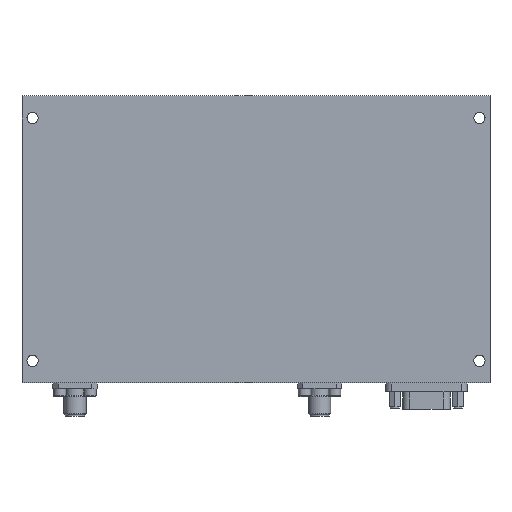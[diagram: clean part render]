
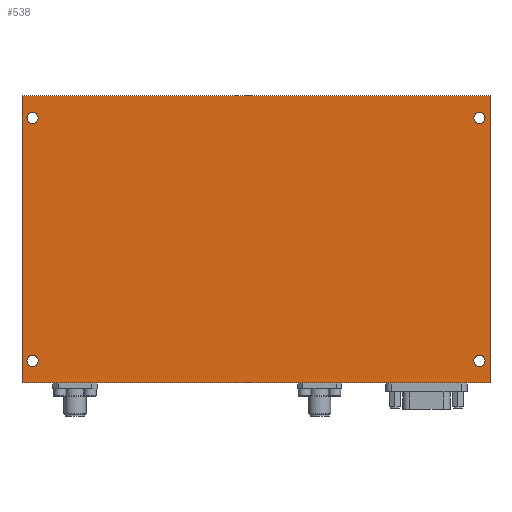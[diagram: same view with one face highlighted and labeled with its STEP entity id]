
A CAD part, top view. The second image highlights one B-rep face of the part: STEP entity #538.
In plain terms, the highlighted planar face has unit normal (0, 0, 1).
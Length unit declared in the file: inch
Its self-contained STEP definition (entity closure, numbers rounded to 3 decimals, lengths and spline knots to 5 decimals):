
#135=CARTESIAN_POINT('',(2.594,-1.375,0.57));
#136=VERTEX_POINT('',#135);
#137=CARTESIAN_POINT('',(2.53,-1.375,0.57));
#138=DIRECTION('',(0.0,0.0,-1.0));
#139=DIRECTION('',(1.0,0.0,0.0));
#140=AXIS2_PLACEMENT_3D('',#137,#138,#139);
#141=CIRCLE('',#140,0.064);
#142=EDGE_CURVE('',#136,#136,#141,.T.);
#163=CARTESIAN_POINT('',(-2.466,1.375,0.57));
#164=VERTEX_POINT('',#163);
#165=CARTESIAN_POINT('',(-2.53,1.375,0.57));
#166=DIRECTION('',(0.0,0.0,-1.0));
#167=DIRECTION('',(1.0,0.0,0.0));
#168=AXIS2_PLACEMENT_3D('',#165,#166,#167);
#169=CIRCLE('',#168,0.064);
#170=EDGE_CURVE('',#164,#164,#169,.T.);
#191=CARTESIAN_POINT('',(2.594,1.375,0.57));
#192=VERTEX_POINT('',#191);
#193=CARTESIAN_POINT('',(2.53,1.375,0.57));
#194=DIRECTION('',(0.0,0.0,-1.0));
#195=DIRECTION('',(1.0,0.0,0.0));
#196=AXIS2_PLACEMENT_3D('',#193,#194,#195);
#197=CIRCLE('',#196,0.064);
#198=EDGE_CURVE('',#192,#192,#197,.T.);
#219=CARTESIAN_POINT('',(-2.466,-1.375,0.57));
#220=VERTEX_POINT('',#219);
#221=CARTESIAN_POINT('',(-2.53,-1.375,0.57));
#222=DIRECTION('',(0.0,0.0,-1.0));
#223=DIRECTION('',(1.0,0.0,0.0));
#224=AXIS2_PLACEMENT_3D('',#221,#222,#223);
#225=CIRCLE('',#224,0.064);
#226=EDGE_CURVE('',#220,#220,#225,.T.);
#394=CARTESIAN_POINT('',(2.65,1.625,0.57));
#395=VERTEX_POINT('',#394);
#402=CARTESIAN_POINT('',(2.65,-1.625,0.57));
#403=VERTEX_POINT('',#402);
#404=CARTESIAN_POINT('',(2.65,-1.625,0.57));
#405=DIRECTION('',(0.0,1.0,0.0));
#406=VECTOR('',#405,3.25);
#407=LINE('',#404,#406);
#408=EDGE_CURVE('',#403,#395,#407,.T.);
#433=CARTESIAN_POINT('',(-2.65,-1.625,0.57));
#434=VERTEX_POINT('',#433);
#435=CARTESIAN_POINT('',(-2.65,-1.625,0.57));
#436=DIRECTION('',(1.0,0.0,0.0));
#437=VECTOR('',#436,5.3);
#438=LINE('',#435,#437);
#439=EDGE_CURVE('',#434,#403,#438,.T.);
#476=CARTESIAN_POINT('',(-2.65,1.625,0.57));
#477=VERTEX_POINT('',#476);
#478=CARTESIAN_POINT('',(-2.65,1.625,0.57));
#479=DIRECTION('',(0.0,-1.0,0.0));
#480=VECTOR('',#479,3.25);
#481=LINE('',#478,#480);
#482=EDGE_CURVE('',#477,#434,#481,.T.);
#505=CARTESIAN_POINT('',(2.65,1.625,0.57));
#506=DIRECTION('',(-1.0,0.0,0.0));
#507=VECTOR('',#506,5.3);
#508=LINE('',#505,#507);
#509=EDGE_CURVE('',#395,#477,#508,.T.);
#515=CARTESIAN_POINT('',(0.0,0.,0.57));
#516=DIRECTION('',(0.0,0.0,1.0));
#517=DIRECTION('',(1.0,0.0,0.0));
#518=AXIS2_PLACEMENT_3D('',#515,#516,#517);
#519=PLANE('',#518);
#520=ORIENTED_EDGE('',*,*,#509,.T.);
#521=ORIENTED_EDGE('',*,*,#482,.T.);
#522=ORIENTED_EDGE('',*,*,#439,.T.);
#523=ORIENTED_EDGE('',*,*,#408,.T.);
#524=EDGE_LOOP('',(#520,#521,#522,#523));
#525=FACE_OUTER_BOUND('',#524,.T.);
#526=ORIENTED_EDGE('',*,*,#142,.T.);
#527=EDGE_LOOP('',(#526));
#528=FACE_BOUND('',#527,.T.);
#529=ORIENTED_EDGE('',*,*,#170,.T.);
#530=EDGE_LOOP('',(#529));
#531=FACE_BOUND('',#530,.T.);
#532=ORIENTED_EDGE('',*,*,#198,.T.);
#533=EDGE_LOOP('',(#532));
#534=FACE_BOUND('',#533,.T.);
#535=ORIENTED_EDGE('',*,*,#226,.T.);
#536=EDGE_LOOP('',(#535));
#537=FACE_BOUND('',#536,.T.);
#538=ADVANCED_FACE('',(#525,#528,#531,#534,#537),#519,.T.);
